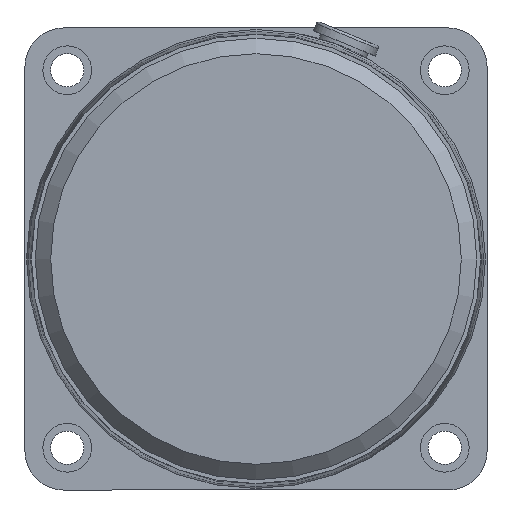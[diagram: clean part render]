
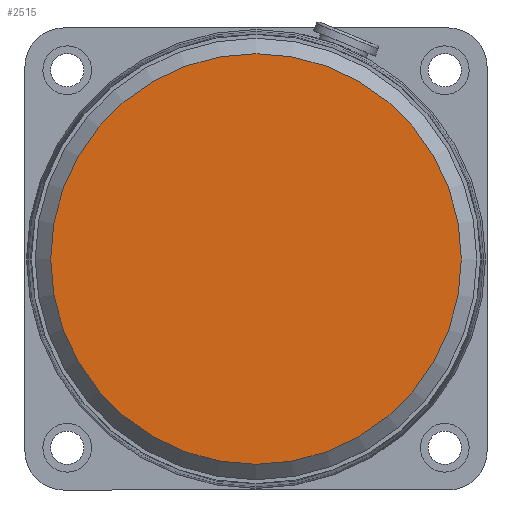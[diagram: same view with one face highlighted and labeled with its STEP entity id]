
A CAD part, left-side view. The second image highlights one B-rep face of the part: STEP entity #2515.
In plain terms, the highlighted planar face has unit normal (-1, 0, 0).
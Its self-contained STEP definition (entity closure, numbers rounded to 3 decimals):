
#2398=CARTESIAN_POINT('',(0.,40.,0.0));
#2399=VERTEX_POINT('',#2398);
#2400=CARTESIAN_POINT('',(0.,0.,0.0));
#2401=DIRECTION('',(1.0,0.0,0.0));
#2402=DIRECTION('',(0.0,1.0,0.0));
#2403=AXIS2_PLACEMENT_3D('',#2400,#2401,#2402);
#2404=CIRCLE('',#2403,40.);
#2405=EDGE_CURVE('',#2399,#2399,#2404,.T.);
#2507=CARTESIAN_POINT('',(0.,20.,0.0));
#2508=DIRECTION('',(-1.0,0.0,0.0));
#2509=DIRECTION('',(0.0,0.0,1.0));
#2510=AXIS2_PLACEMENT_3D('',#2507,#2508,#2509);
#2511=PLANE('',#2510);
#2512=ORIENTED_EDGE('',*,*,#2405,.F.);
#2513=EDGE_LOOP('',(#2512));
#2514=FACE_OUTER_BOUND('',#2513,.T.);
#2515=ADVANCED_FACE('',(#2514),#2511,.T.);
